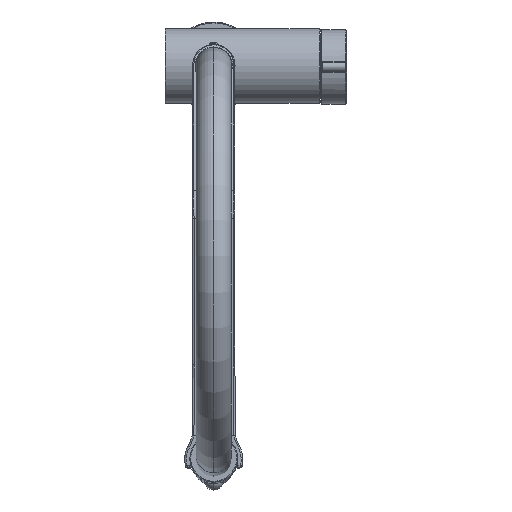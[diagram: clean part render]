
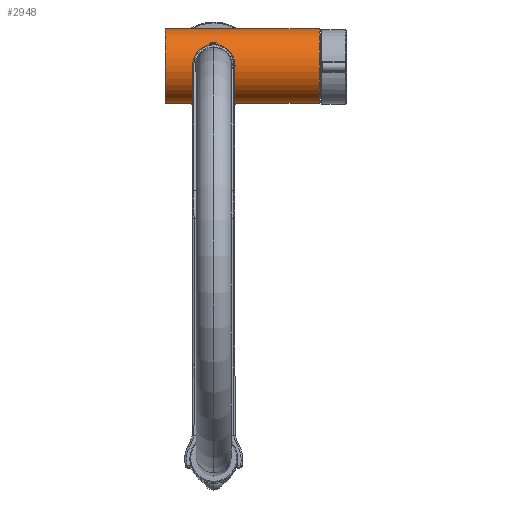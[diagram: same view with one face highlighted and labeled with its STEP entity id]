
A CAD part, top view. The second image highlights one B-rep face of the part: STEP entity #2948.
In plain terms, the highlighted cylindrical face has radius 21 mm (diameter 42 mm), a partial arc.
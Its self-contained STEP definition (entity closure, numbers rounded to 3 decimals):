
#1055=CYLINDRICAL_SURFACE('',#11004,21.);
#1262=FACE_OUTER_BOUND('',#3879,.T.);
#1843=LINE('',#15397,#2382);
#1844=LINE('',#15401,#2383);
#2382=VECTOR('',#12389,1.);
#2383=VECTOR('',#12392,1.);
#2948=ADVANCED_FACE('',(#1262),#1055,.T.);
#3879=EDGE_LOOP('',(#4689,#4690,#4691,#4692));
#4689=ORIENTED_EDGE('',*,*,#8793,.F.);
#4690=ORIENTED_EDGE('',*,*,#8794,.T.);
#4691=ORIENTED_EDGE('',*,*,#8795,.F.);
#4692=ORIENTED_EDGE('',*,*,#8789,.T.);
#7765=VERTEX_POINT('',#15388);
#7766=VERTEX_POINT('',#15389);
#7769=VERTEX_POINT('',#15398);
#7770=VERTEX_POINT('',#15400);
#8789=EDGE_CURVE('',#7765,#7766,#10367,.T.);
#8793=EDGE_CURVE('',#7769,#7766,#1843,.T.);
#8794=EDGE_CURVE('',#7769,#7770,#10371,.T.);
#8795=EDGE_CURVE('',#7765,#7770,#1844,.T.);
#10367=CIRCLE('',#10997,21.);
#10371=CIRCLE('',#11003,21.);
#10997=AXIS2_PLACEMENT_3D('',#15387,#12377,#12378);
#11003=AXIS2_PLACEMENT_3D('',#15399,#12390,#12391);
#11004=AXIS2_PLACEMENT_3D('',#15402,#12393,#12394);
#12377=DIRECTION('',(1.,0.,0.));
#12378=DIRECTION('',(0.,1.,0.));
#12389=DIRECTION('',(-1.,0.,0.));
#12390=DIRECTION('',(-1.,0.,0.));
#12391=DIRECTION('',(0.,-1.,0.));
#12392=DIRECTION('',(1.,0.,0.));
#12393=DIRECTION('',(1.,0.,0.));
#12394=DIRECTION('',(0.,-1.,0.));
#15387=CARTESIAN_POINT('',(-87.309,41.498,-44.447));
#15388=CARTESIAN_POINT('',(-87.309,62.498,-44.447));
#15389=CARTESIAN_POINT('',(-87.309,20.498,-44.447));
#15397=CARTESIAN_POINT('',(-0.5,20.498,-44.447));
#15398=CARTESIAN_POINT('',(-0.5,20.498,-44.447));
#15399=CARTESIAN_POINT('',(-0.5,41.498,-44.447));
#15400=CARTESIAN_POINT('',(-0.5,62.498,-44.447));
#15401=CARTESIAN_POINT('',(-87.309,62.498,-44.447));
#15402=CARTESIAN_POINT('',(-92.4,41.498,-44.447));
